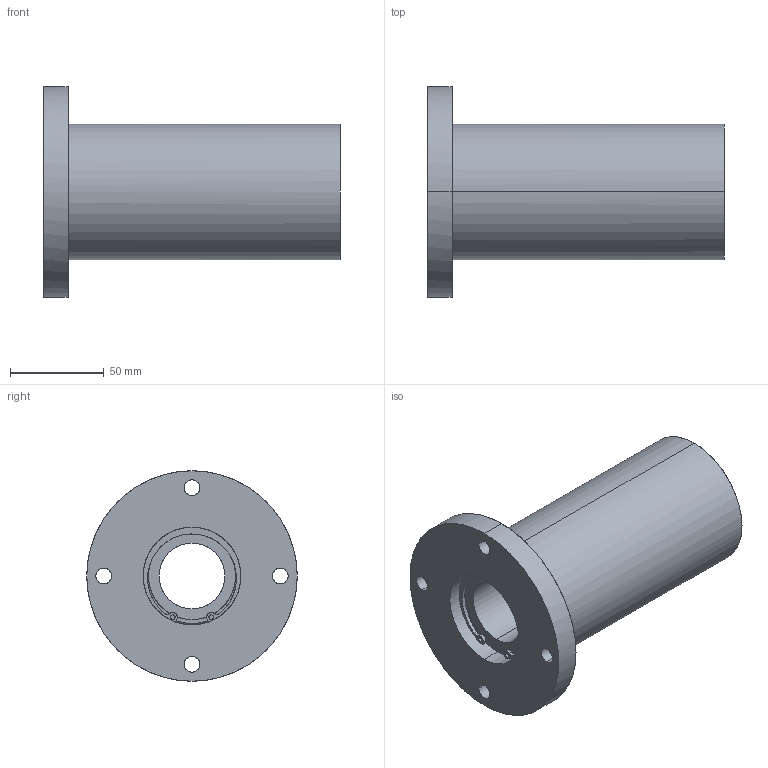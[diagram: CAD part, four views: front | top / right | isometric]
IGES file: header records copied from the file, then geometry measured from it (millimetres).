
Global section: file name: No Iges File Name specified; native system: AutoDesk Inventor R10; preprocessor: AutoDesk Inventor Iges Exporter R10; author: No Author specified; organization: No Organization specified; date: 20101214.134835; units: millimetre
Bounding box: 158 x 112 x 112 mm (x, y, z)
Surface area: 82899.1 mm2 (no closed solid volume)
Topology: 0 solids, 0 shells, 111 faces, 828 edges, 828 vertices
Faces by surface type: bspline 111
